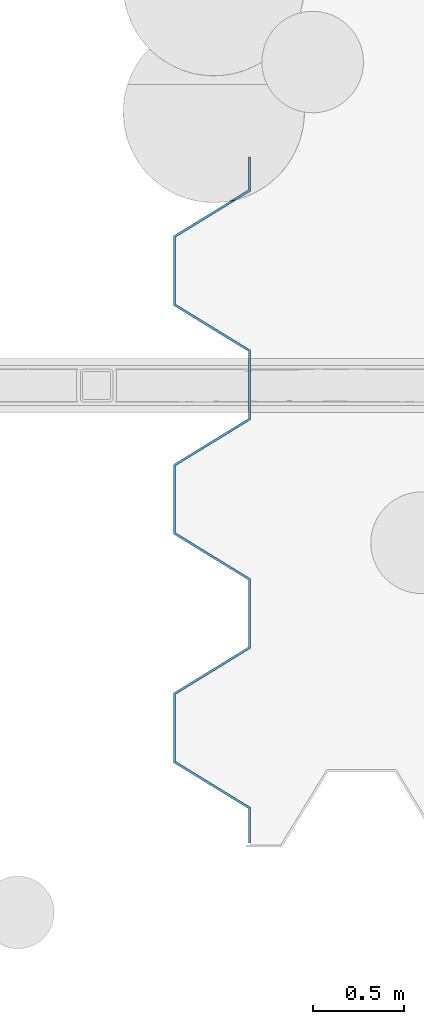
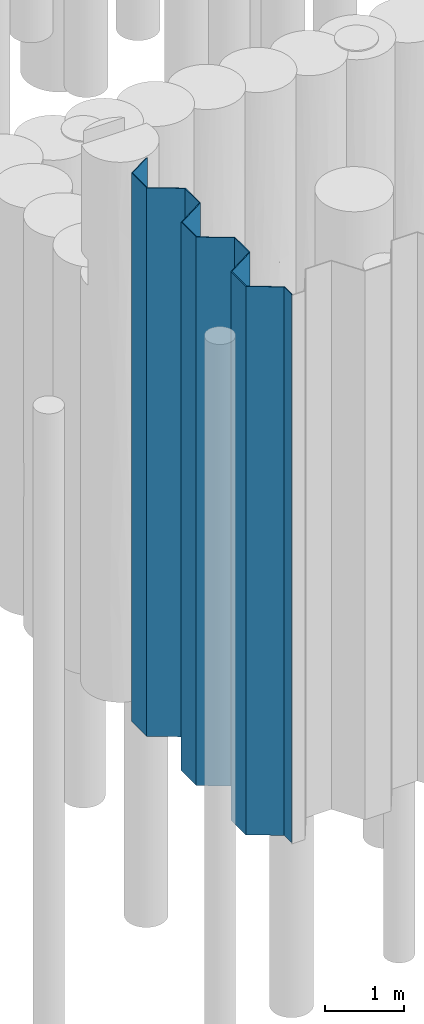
# One storey, part 74 of 104: 1 footing.
"""IFC2X3 building model written with IfcOpenShell, lengths in millimetres."""

from ifc_helpers import new_model, entity, si_unit, converted_unit, derived_unit, direction, frame, origin, place, context, subcontext, project, spatial, faceted_brep, source, transform, mapped, material, type_object, type_shapes, element, save


model = new_model("IFC2X3")

# Units and contexts
model_context = context("Model", 3, precision=0.01, world=origin(), true_north=direction((6.12303176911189e-17, 1.0)))
body_context = subcontext(model_context, "Body", "Model", "MODEL_VIEW")
ifc_project = project(units=[si_unit("LENGTHUNIT", "METRE", prefix="MILLI"), si_unit("AREAUNIT", "SQUARE_METRE", prefix="MILLI"), si_unit("VOLUMEUNIT", "CUBIC_METRE"), converted_unit("PLANEANGLEUNIT", "DEGREE", entity("IfcRatioMeasure", 0.0174532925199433), si_unit("PLANEANGLEUNIT", "RADIAN"), dimensions=[0, 0, 0, 0, 0, 0, 0]), si_unit("MASSUNIT", "GRAM", prefix="KILO"), derived_unit("MASSDENSITYUNIT", [(si_unit("MASSUNIT", "GRAM", prefix="KILO"), 1), (si_unit("LENGTHUNIT", "METRE"), -3)]), derived_unit("MOMENTOFINERTIAUNIT", [(si_unit("LENGTHUNIT", "METRE"), 4)]), si_unit("TIMEUNIT", "SECOND"), si_unit("FREQUENCYUNIT", "HERTZ"), si_unit("THERMODYNAMICTEMPERATUREUNIT", "DEGREE_CELSIUS"), derived_unit("THERMALTRANSMITTANCEUNIT", [(si_unit("MASSUNIT", "GRAM", prefix="KILO"), 1), (si_unit("THERMODYNAMICTEMPERATUREUNIT", "KELVIN"), -1), (si_unit("TIMEUNIT", "SECOND"), -3)]), derived_unit("VOLUMETRICFLOWRATEUNIT", [(si_unit("LENGTHUNIT", "METRE"), 3), (si_unit("TIMEUNIT", "SECOND"), -1)]), si_unit("ELECTRICCURRENTUNIT", "AMPERE"), si_unit("ELECTRICVOLTAGEUNIT", "VOLT"), si_unit("POWERUNIT", "WATT"), si_unit("FORCEUNIT", "NEWTON", prefix="KILO"), si_unit("ILLUMINANCEUNIT", "LUX"), si_unit("LUMINOUSFLUXUNIT", "LUMEN"), si_unit("LUMINOUSINTENSITYUNIT", "CANDELA"), derived_unit("USERDEFINED", [(si_unit("MASSUNIT", "GRAM", prefix="KILO"), -1), (si_unit("LENGTHUNIT", "METRE"), -2), (si_unit("TIMEUNIT", "SECOND"), 3), (si_unit("LUMINOUSFLUXUNIT", "LUMEN"), 1)]), derived_unit("LINEARVELOCITYUNIT", [(si_unit("LENGTHUNIT", "METRE"), 1), (si_unit("TIMEUNIT", "SECOND"), -1)]), si_unit("PRESSUREUNIT", "PASCAL"), derived_unit("USERDEFINED", [(si_unit("LENGTHUNIT", "METRE"), -2), (si_unit("MASSUNIT", "GRAM", prefix="KILO"), 1), (si_unit("TIMEUNIT", "SECOND"), -2)]), derived_unit("LINEARFORCEUNIT", [(si_unit("MASSUNIT", "GRAM", prefix="KILO"), 1), (si_unit("LENGTHUNIT", "METRE"), 1), (si_unit("TIMEUNIT", "SECOND"), -2), (si_unit("LENGTHUNIT", "METRE"), -1)]), derived_unit("PLANARFORCEUNIT", [(si_unit("MASSUNIT", "GRAM", prefix="KILO"), 1), (si_unit("LENGTHUNIT", "METRE"), 1), (si_unit("TIMEUNIT", "SECOND"), -2), (si_unit("LENGTHUNIT", "METRE"), -2)])], contexts=[model_context])

# Site, building, storey
site_placement = place(None, origin())
site = spatial("IfcSite", under=ifc_project, at=site_placement, Name="Theater aan de Parade", CompositionType="ELEMENT")
building_placement = place(site_placement, origin())
building = spatial("IfcBuilding", under=site, at=building_placement, Name="Theater aan de Parade", CompositionType="ELEMENT")
storey_placement = place(building_placement, frame((0.0, 0.0, -5520.0)))
storey = spatial("IfcBuildingStorey", under=building, at=storey_placement, Name="-2 kelder", CompositionType="ELEMENT", Elevation=-5520.0)

# Footing
ifc_material = material(Name="00_PBT_MAT_staal")
type_product = type_object("IfcTypeProduct", Name="indicatie:Damwand ter indicatie", material=ifc_material)
shared_shape = source(origin(), body_context, "Body", "Brep", [
    faceted_brep([(427.0, 195.299999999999, 0.0), (427.0, 0.0, 0.0), (414.0, 0.0, 0.0), (414.0, 188.964879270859, 0.0), (0.0, 443.100000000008, 0.0), (0.0, 825.300000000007, 0.0), (414.0, 1079.43512072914, 0.0), (414.0, 1260.0, 0.0), (427.0, 1260.0, 0.0), (427.0, 1073.1, 0.0), (13.0, 818.964879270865, 0.0), (13.0, 449.435120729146, 0.0), (427.0, 195.299999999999, 150.0), (427.0, 195.299999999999, 1150.0), (427.0, 195.299999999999, 8500.0), (427.0, 0.0, 8500.0), (427.0, 0.0, 1150.0), (427.0, 0.0, 150.0), (414.0, 0.0, 8500.0), (414.0, 188.964879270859, 8500.0), (0.0, 443.100000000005, 8500.0), (0.0, 825.300000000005, 8500.0), (414.0, 1079.43512072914, 8500.0), (414.0, 1260.0, 8500.0), (427.0, 1260.0, 8500.0), (427.0, 1260.0, 1150.0), (427.0, 1260.0, 150.0), (427.0, 1073.1, 8500.0), (427.0, 1073.1, 1150.0), (427.0, 1073.1, 150.0), (13.0, 818.964879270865, 8500.0), (13.0, 818.964879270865, 1150.0), (13.0, 818.964879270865, 150.0), (13.0, 449.435120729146, 8500.0), (13.0, 449.435120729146, 1150.0), (13.0, 449.435120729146, 150.0)], [[[0, 1, 2, 3, 4, 5, 6, 7, 8, 9, 10, 11]], [[1, 0, 12, 13, 14, 15, 16, 17]], [[2, 1, 17, 16, 15, 18]], [[3, 2, 18, 19]], [[4, 3, 19, 20]], [[5, 4, 20, 21]], [[6, 5, 21, 22]], [[7, 6, 22, 23]], [[8, 7, 23, 24, 25, 26]], [[9, 8, 26, 25, 24, 27, 28, 29]], [[10, 9, 29, 28, 27, 30, 31, 32]], [[11, 10, 32, 31, 30, 33, 34, 35]], [[0, 11, 35, 34, 33, 14, 13, 12]], [[15, 14, 33, 30, 27, 24, 23, 22, 21, 20, 19, 18]]]),
    faceted_brep([(427.0, 1455.3, 0.0), (427.0, 1260.0, 0.0), (414.0, 1260.0, 0.0), (414.0, 1448.96487927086, 0.0), (0.0, 1703.10000000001, 0.0), (0.0, 2085.30000000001, 0.0), (414.0, 2339.43512072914, 0.0), (414.0, 2520.0, 0.0), (427.0, 2520.0, 0.0), (427.0, 2333.1, 0.0), (13.0, 2078.96487927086, 0.0), (13.0, 1709.43512072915, 0.0), (427.0, 1455.3, 150.0), (427.0, 1455.3, 1150.0), (427.0, 1455.3, 8500.0), (427.0, 1260.0, 8500.0), (427.0, 1260.0, 1150.0), (427.0, 1260.0, 150.0), (414.0, 1260.0, 8500.0), (414.0, 1448.96487927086, 8500.0), (0.0, 1703.1, 8500.0), (0.0, 2085.3, 8500.0), (414.0, 2339.43512072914, 8500.0), (414.0, 2520.0, 8500.0), (427.0, 2520.0, 8500.0), (427.0, 2520.0, 1150.0), (427.0, 2520.0, 150.0), (427.0, 2333.1, 8500.0), (427.0, 2333.1, 1150.0), (427.0, 2333.1, 150.0), (13.0, 2078.96487927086, 8500.0), (13.0, 2078.96487927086, 1150.0), (13.0, 2078.96487927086, 150.0), (13.0, 1709.43512072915, 8500.0), (13.0, 1709.43512072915, 1150.0), (13.0, 1709.43512072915, 150.0)], [[[0, 1, 2, 3, 4, 5, 6, 7, 8, 9, 10, 11]], [[1, 0, 12, 13, 14, 15, 16, 17]], [[2, 1, 17, 16, 15, 18]], [[3, 2, 18, 19]], [[4, 3, 19, 20]], [[5, 4, 20, 21]], [[6, 5, 21, 22]], [[7, 6, 22, 23]], [[8, 7, 23, 24, 25, 26]], [[9, 8, 26, 25, 24, 27, 28, 29]], [[10, 9, 29, 28, 27, 30, 31, 32]], [[11, 10, 32, 31, 30, 33, 34, 35]], [[0, 11, 35, 34, 33, 14, 13, 12]], [[15, 14, 33, 30, 27, 24, 23, 22, 21, 20, 19, 18]]]),
    faceted_brep([(0.0, 3345.30000000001, 0.0), (414.0, 3599.43512072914, 0.0), (414.0, 3780.0, 0.0), (427.0, 3780.0, 0.0), (427.0, 3593.1, 0.0), (13.0, 3338.96487927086, 0.0), (13.0, 2969.43512072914, 0.0), (427.0, 2715.3, 0.0), (427.0, 2520.0, 0.0), (414.0, 2520.0, 0.0), (414.0, 2708.96487927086, 0.0), (0.0, 2963.10000000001, 0.0), (427.0, 2520.0, 8500.0), (427.0, 2520.0, 1150.0), (427.0, 2520.0, 150.0), (427.0, 2715.3, 150.0), (427.0, 2715.3, 1150.0), (427.0, 2715.3, 8500.0), (427.0, 3780.0, 150.0), (427.0, 3593.1, 150.0), (414.0, 2520.0, 8500.0), (414.0, 2708.96487927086, 8500.0), (414.0, 3599.43512072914, 150.0), (414.0, 3780.0, 150.0), (0.0, 2963.1, 8500.0), (0.0, 3345.3, 8500.0), (312.575871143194, 3537.17562016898, 8500.0), (312.57587114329, 3537.17562016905, 8402.4088309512), (312.575871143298, 3537.17562016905, 8239.05182240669), (312.57587114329, 3537.17562016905, 8108.59400422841), (312.57587114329, 3537.17562016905, 7978.11991543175), (312.57587114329, 3537.17562016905, 7847.6458266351), (312.575871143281, 3537.17562016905, 7717.18800845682), (312.575871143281, 3537.17562016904, 7586.71391966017), (312.575871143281, 3537.17562016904, 7456.23983086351), (312.575871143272, 3537.17562016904, 7325.78201268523), (312.575871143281, 3537.17562016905, 7195.30792388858), (312.575871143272, 3537.17562016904, 7064.83383509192), (312.575871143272, 3537.17562016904, 6934.37601691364), (312.575871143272, 3537.17562016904, 6803.90192811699), (312.575871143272, 3537.17562016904, 6673.42783932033), (312.575871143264, 3537.17562016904, 6542.97002114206), (312.575871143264, 3537.17562016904, 6412.4959323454), (312.575871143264, 3537.17562016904, 6282.02184354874), (312.575871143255, 3537.17562016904, 6151.56402537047), (312.575871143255, 3537.17562016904, 6021.08993657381), (312.575871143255, 3537.17562016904, 5890.61584777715), (312.575871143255, 3537.17562016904, 5760.15802959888), (312.575871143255, 3537.17562016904, 5629.68394080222), (312.575871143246, 3537.17562016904, 5499.20985200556), (312.575871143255, 3537.17562016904, 5368.75203382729), (312.575871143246, 3537.17562016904, 5238.27794503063), (312.575871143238, 3537.17562016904, 5107.80385623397), (312.575871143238, 3537.17562016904, 4977.3460380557), (312.575871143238, 3537.17562016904, 4846.87194925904), (312.575871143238, 3537.17562016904, 4716.39786046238), (312.575871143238, 3537.17562016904, 4585.94004228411), (312.575871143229, 3537.17562016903, 4455.46595348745), (312.575871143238, 3537.17562016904, 4324.99186469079), (312.575871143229, 3537.17562016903, 4194.53404651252), (312.57587114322, 3537.17562016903, 4064.05995771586), (312.575871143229, 3537.17562016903, 3933.5858689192), (312.57587114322, 3537.17562016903, 3803.12805074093), (312.57587114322, 3537.17562016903, 3672.65396194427), (312.57587114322, 3537.17562016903, 3542.17987314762), (312.575871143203, 3537.17562016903, 3411.72205496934), (312.57587114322, 3537.17562016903, 3281.24796617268), (312.575871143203, 3537.17562016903, 3150.77387737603), (312.575871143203, 3537.17562016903, 3020.31605919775), (312.575871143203, 3537.17562016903, 2889.84197040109), (312.575871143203, 3537.17562016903, 2759.36788160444), (312.575871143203, 3537.17562016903, 2628.91006342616), (312.575871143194, 3537.17562016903, 2498.43597462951), (312.575871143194, 3537.17562016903, 2367.96188583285), (312.575871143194, 3537.17562016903, 2237.50406765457), (312.575871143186, 3537.17562016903, 2107.02997885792), (312.575871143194, 3537.17562016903, 1976.55589006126), (312.575871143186, 3537.17562016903, 1846.09807188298), (312.575871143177, 3537.17562016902, 1715.62398308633), (312.575871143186, 3537.17562016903, 1585.14989428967), (312.575871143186, 3537.17562016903, 1454.69207611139), (312.575871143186, 3537.17562016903, 1324.21798731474), (312.575871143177, 3537.17562016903, 1193.74389851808), (312.575871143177, 3537.17562016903, 1063.2860803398), (312.575871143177, 3537.17562016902, 932.811991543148), (312.575871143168, 3537.17562016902, 802.337902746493), (312.575871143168, 3537.17562016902, 671.880084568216), (312.575871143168, 3537.17562016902, 541.405995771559), (312.57587114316, 3537.17562016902, 410.931906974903), (312.575871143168, 3537.17562016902, 247.591169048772), (312.575871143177, 3537.17562016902, 150.0), (13.0, 3338.96487927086, 8500.0), (13.0, 3338.96487927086, 1150.0), (13.0, 3338.96487927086, 150.0), (348.898834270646, 3545.15736912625, 150.0), (348.898834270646, 3545.15736912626, 345.190240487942), (348.898834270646, 3545.15736912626, 497.59512024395), (348.898834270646, 3545.15736912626, 650.0), (348.898834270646, 3545.15736912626, 775.002083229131), (348.898834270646, 3545.15736912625, 900.0), (348.898834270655, 3545.15736912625, 1024.99791677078), (348.898834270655, 3545.15736912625, 1150.0), (348.898834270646, 3545.15736912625, 1264.84508416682), (348.898834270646, 3545.15736912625, 1379.69016833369), (348.898834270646, 3545.15736912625, 1609.38033666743), (348.898834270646, 3545.15736912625, 1839.07050500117), (348.898834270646, 3545.15736912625, 2068.76067333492), (348.898834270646, 3545.15736912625, 2183.60575750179), (348.898834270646, 3545.15736912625, 2298.45084166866), (348.898834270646, 3545.15736912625, 2528.1410100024), (348.898834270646, 3545.15736912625, 2757.83117833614), (348.898834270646, 3545.15736912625, 2987.49288444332), (348.898834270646, 3545.15736912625, 3217.15459055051), (348.898834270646, 3545.15736912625, 3446.84475888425), (348.898834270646, 3545.15736912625, 3561.68984305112), (348.898834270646, 3545.15736912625, 3676.53492721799), (348.898834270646, 3545.15736912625, 3906.22509555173), (348.898834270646, 3545.15736912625, 4021.0701797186), (348.898834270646, 3545.15736912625, 4135.91526388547), (348.898834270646, 3545.15736912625, 4365.60543221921), (348.898834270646, 3545.15736912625, 4595.29560055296), (348.898834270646, 3545.15736912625, 4824.9857688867), (348.898834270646, 3545.15736912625, 5054.67593722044), (348.898834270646, 3545.15736912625, 5284.36610555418), (348.898834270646, 3545.15736912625, 5399.21118972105), (348.898834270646, 3545.15736912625, 5514.05627388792), (348.898834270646, 3545.15736912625, 5743.74644222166), (348.898834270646, 3545.15736912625, 5858.59152638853), (348.898834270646, 3545.15736912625, 5973.4366105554), (348.898834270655, 3545.15736912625, 6203.12677888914), (348.898834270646, 3545.15736912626, 6317.97186305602), (348.898834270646, 3545.15736912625, 6432.81694722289), (348.898834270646, 3545.15736912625, 6662.50711555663), (348.898834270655, 3545.15736912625, 6892.19728389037), (348.898834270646, 3545.15736912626, 7121.88745222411), (348.898834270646, 3545.15736912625, 7236.73253639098), (348.898834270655, 3545.15736912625, 7351.57762055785), (348.898834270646, 3545.15736912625, 7581.26778889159), (348.898834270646, 3545.15736912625, 7810.95795722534), (348.898834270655, 3545.15736912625, 8040.64812555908), (348.898834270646, 3545.15736912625, 8172.71285679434), (348.898834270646, 3545.15736912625, 8304.80605025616), (348.898834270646, 3545.15736912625, 8402.40302512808), (348.898834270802, 3545.15736912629, 8500.0), (13.0, 2969.43512072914, 8500.0), (13.0, 2969.43512072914, 1150.0), (13.0, 2969.43512072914, 150.0), (330.811587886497, 3540.82866872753, 8500.0), (330.848734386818, 3540.8368329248, 150.0), (330.372619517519, 3540.73241489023, 4680.9017691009), (331.151521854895, 3540.90349118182, 4520.70312476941), (329.515447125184, 3540.54565179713, 3720.10235548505), (331.595825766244, 3541.00166054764, 962.499999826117), (330.759358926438, 3540.81719466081, 2694.14062472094), (330.346638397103, 3540.72673089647, 2543.47684702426), (329.709770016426, 3540.58785333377, 8043.35937497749), (330.121675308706, 3540.67757536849, 7886.57552494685), (331.17383453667, 3540.90841107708, 6731.83601954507), (331.726011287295, 3541.03050550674, 2407.25536880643), (330.015134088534, 3540.65433346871, 467.884823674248), (330.195523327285, 3540.69369955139, 606.640624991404), (330.803182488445, 3540.82682176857, 1662.34745805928), (331.782824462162, 3541.04310491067, 1519.92187482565), (331.062270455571, 3540.88382214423, 1911.32812477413), (331.663223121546, 3541.01658910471, 2241.01562478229), (327.731532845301, 3540.16201358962, 3991.3374444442), (330.286023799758, 3540.71347562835, 4114.09786717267), (327.97317332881, 3540.2135806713, 1787.00115089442), (329.265058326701, 3540.49139360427, 2054.99272164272), (330.634320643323, 3540.78974905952, 7521.48437497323), (332.80233560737, 3541.27038075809, 4250.78124980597), (331.18494383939, 3540.91086105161, 8216.7412238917), (328.073586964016, 3540.23504608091, 6605.3024029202), (332.920926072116, 3541.29696288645, 5173.04687482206), (329.423722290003, 3540.52575982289, 5030.89178974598), (328.011459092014, 3540.22176247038, 5438.02422786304), (327.791996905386, 3540.17490515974, 1252.79408471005), (329.26703571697, 3540.49182157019, 1377.49139035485), (330.366493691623, 3540.7310745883, 5564.45312485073), (329.346503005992, 3540.50902758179, 3205.13553662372), (332.271457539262, 3541.15175509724, 3347.06096060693), (332.09028247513, 3541.11140996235, 6076.3459935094), (329.785152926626, 3540.60424619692, 6215.71927370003), (331.499314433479, 3540.98030022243, 5916.01562494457), (330.811587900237, 3540.82866873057, 8353.60583997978), (329.320698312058, 3540.50343894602, 7376.45497795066), (331.599939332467, 3541.00257142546, 7179.29687503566), (331.365717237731, 3540.95076491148, 781.253151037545), (329.14713275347, 3540.46588615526, 329.266803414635), (331.726014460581, 3541.03050621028, 7745.2509796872), (330.577342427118, 3540.77725360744, 4815.29048470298), (330.577344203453, 3540.77725399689, 4385.28750999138), (330.147541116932, 3540.6832216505, 5311.38930700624), (331.940624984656, 3541.07813658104, 7016.51119898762), (330.054416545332, 3540.66290007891, 6878.6798733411), (329.827576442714, 3540.6134770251, 1128.51562487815), (329.390161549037, 3540.51848615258, 5710.74024516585), (328.358410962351, 3540.29605021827, 6346.87575886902), (331.294253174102, 3540.93498156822, 3504.29687476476), (330.080269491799, 3540.66853982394, 3868.35937472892), (330.895567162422, 3540.84713022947, 2862.23112357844), (331.782826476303, 3541.04310535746, 3060.99341758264), (330.231301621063, 3540.70151569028, 6477.73437492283)], [[[0, 1, 2, 3, 4, 5, 6, 7, 8, 9, 10, 11]], [[12, 13, 14, 8, 7, 15, 16, 17]], [[18, 19, 4, 3]], [[12, 20, 9, 8, 14, 13]], [[20, 21, 10, 9]], [[22, 23, 2, 1]], [[21, 24, 11, 10]], [[24, 25, 0, 11]], [[25, 26, 27, 28, 29, 30, 31, 32, 33, 34, 35, 36, 37, 38, 39, 40, 41, 42, 43, 44, 45, 46, 47, 48, 49, 50, 51, 52, 53, 54, 55, 56, 57, 58, 59, 60, 61, 62, 63, 64, 65, 66, 67, 68, 69, 70, 71, 72, 73, 74, 75, 76, 77, 78, 79, 80, 81, 82, 83, 84, 85, 86, 87, 88, 89, 90, 22, 1, 0]], [[23, 18, 3, 2]], [[91, 92, 93, 5, 4, 19, 94, 95, 96, 97, 98, 99, 100, 101, 102, 103, 104, 105, 106, 107, 108, 109, 110, 111, 112, 113, 114, 115, 116, 117, 118, 119, 120, 121, 122, 123, 124, 125, 126, 127, 128, 129, 130, 131, 132, 133, 134, 135, 136, 137, 138, 139, 140, 141, 142, 143]], [[144, 145, 146, 6, 5, 93, 92, 91]], [[17, 16, 15, 7, 6, 146, 145, 144]], [[91, 143, 147, 26, 25, 24, 21, 20, 12, 17, 144]], [[23, 22, 90, 148, 94, 19, 18]], [[149, 150, 56]], [[115, 114, 151, 116]], [[148, 90, 89]], [[150, 57, 56]], [[152, 100, 99]], [[71, 153, 154]], [[30, 155, 156]], [[40, 39, 157]], [[158, 72, 154]], [[159, 87, 160]], [[161, 162, 79]], [[163, 106, 105]], [[164, 75, 74, 73]], [[165, 166, 117]], [[167, 163, 105]], [[163, 76, 168]], [[169, 34, 33]], [[118, 166, 170]], [[29, 28, 171]], [[41, 40, 172]], [[52, 173, 174]], [[175, 125, 124]], [[176, 177, 102]], [[178, 125, 175]], [[179, 180, 112]], [[174, 122, 121]], [[181, 44, 182]], [[183, 45, 181]], [[184, 171, 28]], [[185, 186, 35]], [[185, 169, 136]], [[108, 107, 164]], [[184, 28, 27, 26, 147]], [[139, 156, 155]], [[85, 84, 187, 86]], [[188, 95, 94]], [[160, 86, 187]], [[140, 155, 171]], [[87, 86, 160]], [[188, 94, 148]], [[142, 141, 184, 147]], [[147, 143, 142]], [[188, 89, 88]], [[171, 155, 29]], [[141, 171, 184]], [[29, 155, 30]], [[139, 155, 140]], [[156, 138, 189]], [[139, 138, 156]], [[32, 31, 189, 33]], [[156, 189, 31]], [[149, 55, 190]], [[119, 170, 191]], [[192, 173, 51]], [[174, 173, 122]], [[67, 66, 179]], [[170, 119, 118]], [[79, 162, 80]], [[177, 162, 103]], [[189, 138, 137]], [[137, 136, 169]], [[33, 189, 169]], [[185, 34, 169]], [[137, 169, 189]], [[36, 35, 186, 37]], [[193, 37, 186]], [[136, 135, 185]], [[135, 186, 185]], [[186, 135, 134]], [[194, 38, 193]], [[194, 133, 157]], [[193, 186, 134]], [[193, 134, 133]], [[35, 34, 185]], [[89, 188, 148]], [[159, 96, 95]], [[159, 188, 88]], [[97, 96, 160]], [[159, 88, 87]], [[195, 82, 176]], [[98, 97, 187, 99]], [[160, 187, 97]], [[187, 152, 99]], [[188, 159, 95]], [[159, 160, 96]], [[178, 48, 196]], [[43, 197, 182]], [[196, 126, 178]], [[133, 194, 193]], [[194, 157, 39]], [[39, 38, 194]], [[63, 151, 198]], [[114, 198, 151]], [[199, 116, 151]], [[163, 167, 77]], [[31, 30, 156]], [[193, 38, 37]], [[153, 70, 200]], [[158, 164, 73]], [[130, 197, 131]], [[69, 68, 200, 70]], [[179, 112, 201]], [[180, 198, 113]], [[128, 127, 183]], [[183, 47, 46, 45]], [[140, 171, 141]], [[149, 120, 150]], [[58, 57, 191]], [[150, 120, 119]], [[149, 121, 120]], [[121, 149, 190]], [[192, 123, 173]], [[149, 56, 55]], [[173, 52, 51]], [[173, 123, 122]], [[53, 52, 174]], [[174, 190, 53]], [[49, 48, 178]], [[54, 53, 190, 55]], [[50, 192, 51]], [[50, 175, 192]], [[124, 123, 192]], [[125, 178, 126]], [[127, 126, 196]], [[196, 47, 183]], [[181, 128, 183]], [[196, 183, 127]], [[49, 175, 50]], [[181, 129, 128]], [[129, 181, 182]], [[49, 178, 175]], [[196, 48, 47]], [[192, 175, 124]], [[197, 202, 131]], [[130, 129, 182]], [[45, 44, 181]], [[182, 44, 43]], [[150, 119, 191]], [[166, 59, 170]], [[118, 117, 166]], [[61, 165, 199]], [[151, 62, 199]], [[61, 199, 62]], [[116, 165, 117]], [[64, 63, 198, 65]], [[114, 113, 198]], [[150, 191, 57]], [[180, 65, 198]], [[66, 180, 179]], [[180, 113, 112]], [[58, 170, 59]], [[166, 60, 59]], [[165, 61, 60]], [[201, 67, 179]], [[63, 62, 151]], [[68, 67, 201]], [[116, 199, 165]], [[166, 165, 60]], [[180, 66, 65]], [[191, 170, 58]], [[161, 104, 162]], [[80, 162, 177]], [[162, 104, 103]], [[81, 80, 177]], [[152, 84, 83]], [[104, 161, 105]], [[78, 161, 79]], [[76, 163, 77]], [[78, 167, 161]], [[106, 163, 168]], [[107, 106, 168]], [[168, 75, 164]], [[158, 108, 164]], [[168, 164, 107]], [[77, 167, 78]], [[158, 109, 108]], [[109, 158, 154]], [[101, 195, 176]], [[168, 76, 75]], [[161, 167, 105]], [[110, 109, 153]], [[153, 109, 154]], [[70, 153, 71]], [[154, 72, 71]], [[110, 153, 200]], [[200, 111, 110]], [[201, 111, 200]], [[82, 195, 83]], [[152, 195, 100]], [[195, 101, 100]], [[84, 152, 187]], [[83, 195, 152]], [[101, 176, 102]], [[103, 102, 177]], [[176, 82, 81]], [[177, 176, 81]], [[172, 157, 132]], [[132, 157, 133]], [[42, 41, 202]], [[172, 202, 41]], [[131, 202, 132]], [[197, 43, 42]], [[182, 197, 130]], [[202, 197, 42]], [[202, 172, 132]], [[157, 172, 40]], [[121, 190, 174]], [[68, 201, 200]], [[111, 201, 112]], [[73, 72, 158]]]),
])
type_shapes(type_product, [shared_shape])
footing_placement = place(storey_placement, frame((73576.4999999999, 13675.8228664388, -3990.0)))
element("IfcFooting", 1, at=footing_placement, inside=storey, type_object=type_product, material=ifc_material, Name="indicatie:Damwand ter indicatie", ObjectType="indicatie:Damwand ter indicatie", context=body_context, shape_type="MappedRepresentation", body=[
    mapped(shared_shape, transform((0.0, 0.0, 0.0), scale=1.0)),
])

save(model, "model.ifc")
